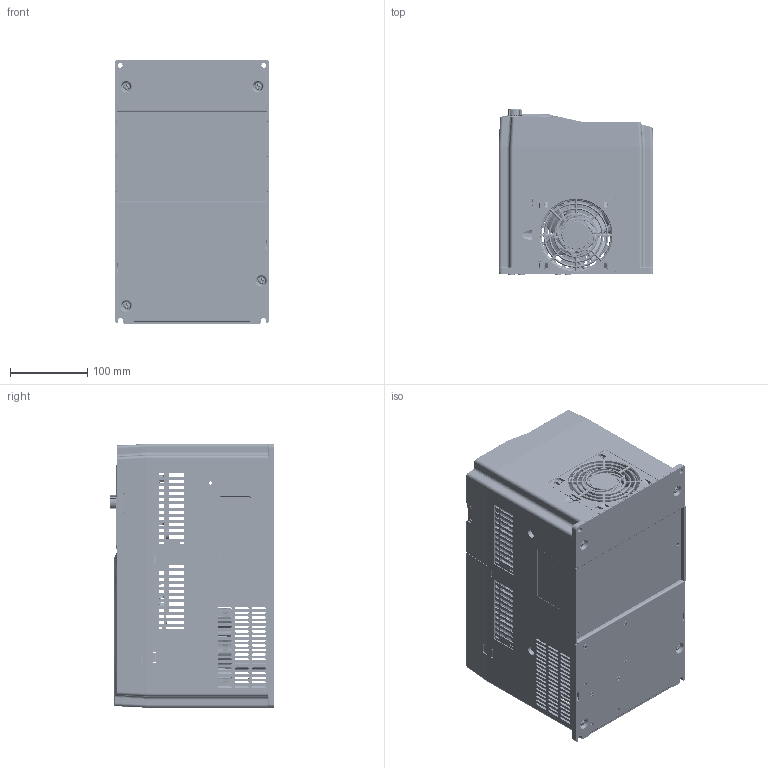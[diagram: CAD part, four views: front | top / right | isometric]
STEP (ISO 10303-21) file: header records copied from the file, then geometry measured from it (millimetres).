
FILE_DESCRIPTION((''),'2;1');
FILE_NAME('GD350-01-015G-4_ASM','2024-09-11T15:42:11',('Administrator'),(''),'CREO PARAMETRIC BY PTC INC, 2019080','CREO PARAMETRIC BY PTC INC, 2019080','');
FILE_SCHEMA(('CONFIG_CONTROL_DESIGN'));
Products named in the file (44): PA1604_DR1; E-TB06-14_5MM-T; PA1604_DR1_ASM; B36299011; B36711560; FAN_92_38_; FAN-CONN-1; FAN-CONN-2; FAN-CONN_ASM; 17003-06089-3D_B1; E-MJ0204-100TH; E-DIN0205-5_08MM-22_1MM-RM; E-DIN0107-5_08MM-RMD-A; E-DIN0208-5_08MM-22_1MM-RM; E-IDC34-ORM1; E-HEAD0105-4_2MM-TF-A; 17003-06089_ASM; GD350-01-015G-4-ES_ASM; 80740186; 80740185; 80810110; 80810294; 80810294SY; 80810294SY_ASM; 80880501; INVT8_034_0058_; INVT8_034_0059_; JP-PCB_; DIANWEIQI_; INVT8_034_0060_; 86410001; INVT8_034_0064_; SHUMAGUAN_; 001_ASM; GD350-01-MODEL; 88170501; 80310452; 80780039; 7847YTJ1; 80383967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
Assembly tree (59 placements, depth 4):
  GD350-01-015G-4_ASM
    GD350-01-015G-4-ES_ASM
      PA1604_DR1_ASM
        PA1604_DR1
        E-TB06-14_5MM-T
      B36299011
      B36711560
      FAN_92_38_
      FAN-CONN_ASM
        FAN-CONN-1
        FAN-CONN-2
      17003-06089_ASM
        17003-06089-3D_B1
        E-MJ0204-100TH
        E-DIN0205-5_08MM-22_1MM-RM
        E-DIN0107-5_08MM-RMD-A
        E-DIN0208-5_08MM-22_1MM-RM
        E-IDC34-ORM1
        E-HEAD0105-4_2MM-TF-A
    80740186
    80740185
    80810110
    80810294SY_ASM
      80810294
      80810294SY
    80880501
    001_ASM
      INVT8_034_0058_
      INVT8_034_0059_
      JP-PCB_
      DIANWEIQI_
      INVT8_034_0060_
      86410001
      INVT8_034_0064_
      SHUMAGUAN_
    GD350-01-MODEL
    88170501
    80310452
    80780039
    7847YTJ1
    80383967
    GB845_ST4D2X13_ZC  x10
    77340010
    GB819_1_M4X8_ZC  x8
Bounding box: 200 x 212.9 x 340.95 mm (x, y, z)
Volume: 1534566.6 mm3; surface area: 1498194.9 mm2
Topology: 53 solids, 95 shells, 14703 faces, 40644 edges, 26428 vertices
Faces by surface type: plane 9366, cylinder 3593, torus 618, cone 425, bspline 401, extrusion 221, sphere 63, revolution 16
Entity records: 487382 total; most frequent: CARTESIAN_POINT 122282, ORIENTED_EDGE 78806, DIRECTION 70879, EDGE_CURVE 39414, VECTOR 28243, LINE 28022, VERTEX_POINT 25646, AXIS2_PLACEMENT_3D 21310
